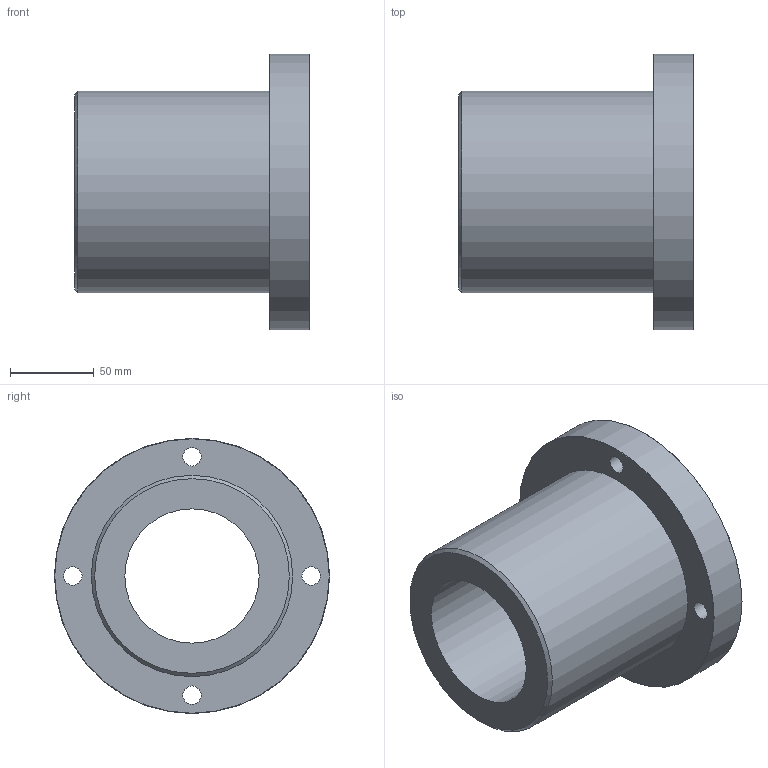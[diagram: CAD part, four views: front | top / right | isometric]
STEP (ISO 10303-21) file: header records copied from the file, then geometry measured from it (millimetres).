
FILE_DESCRIPTION(('STEP AP203'),'1');
FILE_NAME('//192.168.1.1/share/s-4 技術開発/s-4-4_CAD/s-4-4-3_見直し済み/PBC LINEAR修正済み/3D途中/SFPJ/SFPJR/SFPJR80.step','2022-03-24T06:13:18',(' '),(' '),'Spatial InterOp 3D',' ',' ');
FILE_SCHEMA(('CONFIG_CONTROL_DESIGN'));
Length unit declared in the file: millimetre
Products named in the file (1): 1
Bounding box: 140 x 164 x 164 mm (x, y, z)
Volume: 1099429.6 mm3; surface area: 126271 mm2
Topology: 1 solids, 1 shells, 21 faces, 43 edges, 29 vertices
Faces by surface type: cylinder 11, plane 7, cone 3
Full cylindrical faces by diameter (mm): 11 x4, 17 x4, 80 x1, 120 x1, 164 x1
Entity records: 528 total; most frequent: DIRECTION 94, CARTESIAN_POINT 72, EDGE_LOOP 50, ORIENTED_EDGE 50, AXIS2_PLACEMENT_3D 47, FACE_OUTER_BOUND 32, EDGE_CURVE 25, VERTEX_POINT 25
